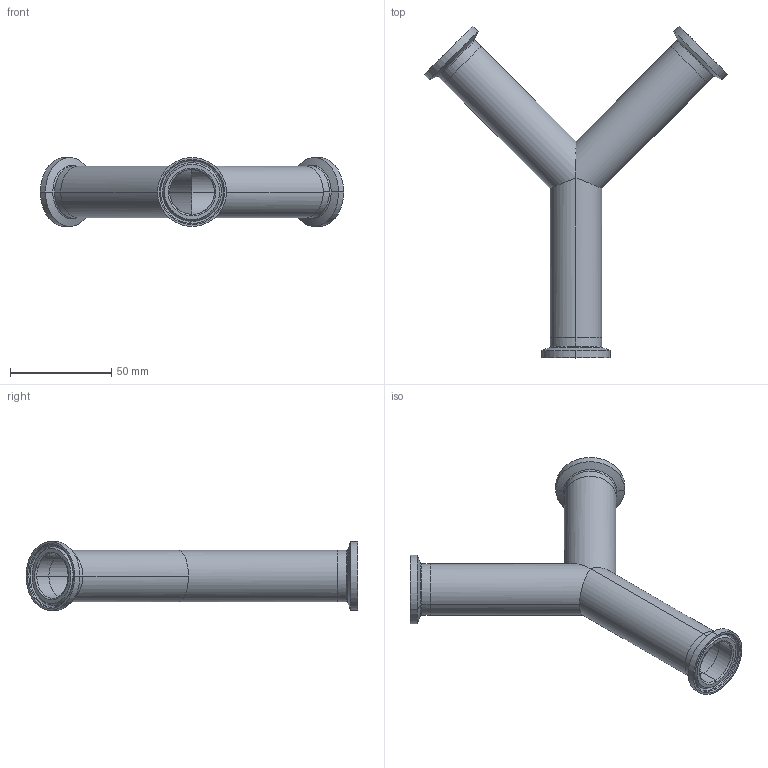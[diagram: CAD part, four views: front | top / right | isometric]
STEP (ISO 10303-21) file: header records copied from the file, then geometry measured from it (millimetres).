
FILE_DESCRIPTION (( 'STEP AP214' ), '1' );
FILE_NAME ('TEG28B6L1.0-..Type A.STEP', '2016-05-25T04:41:54', ( 'eran' ), ( '' ), 'SwSTEP 2.0', 'SolidWorks 2016', '' );
FILE_SCHEMA (( 'AUTOMOTIVE_DESIGN' ));
Length unit declared in the file: millimetre
Products named in the file (1): TEG28B6L1.0-..Type A
Bounding box: 149.77 x 163.79 x 34.01 mm (x, y, z)
Volume: 34970.2 mm3; surface area: 41628.1 mm2
Topology: 4 solids, 4 shells, 84 faces, 210 edges, 136 vertices
Faces by surface type: cylinder 36, bspline 24, plane 12, cone 12
Entity records: 2921 total; most frequent: CARTESIAN_POINT 863, DIRECTION 446, ORIENTED_EDGE 420, EDGE_CURVE 210, AXIS2_PLACEMENT_3D 199, CIRCLE 138, VERTEX_POINT 136, EDGE_LOOP 96
